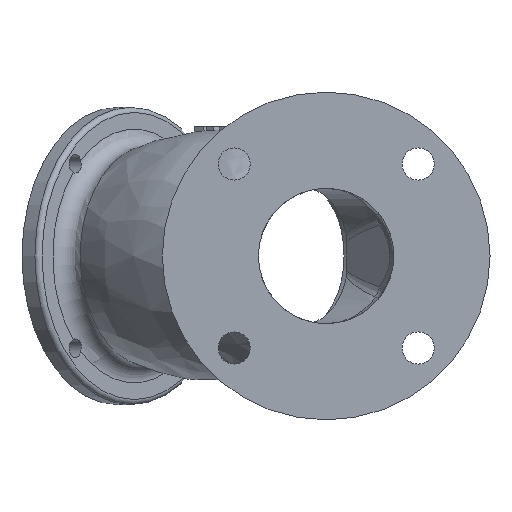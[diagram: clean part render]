
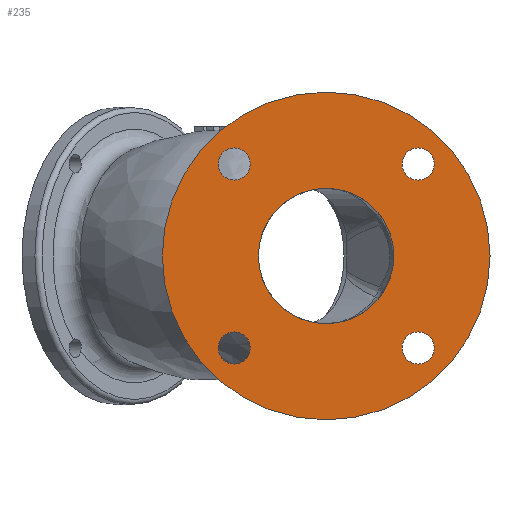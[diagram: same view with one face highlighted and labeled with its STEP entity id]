
A CAD part, front view. The second image highlights one B-rep face of the part: STEP entity #235.
In plain terms, the highlighted planar face has unit normal (0, -1, 0).
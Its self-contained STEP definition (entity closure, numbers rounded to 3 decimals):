
#235 = ADVANCED_FACE( '', ( #609, #610, #611, #612, #613, #614 ), #615, .F. );
#609 = FACE_BOUND( '', #3847, .T. );
#610 = FACE_BOUND( '', #3848, .T. );
#611 = FACE_OUTER_BOUND( '', #3849, .T. );
#612 = FACE_BOUND( '', #3850, .T. );
#613 = FACE_BOUND( '', #3851, .T. );
#614 = FACE_BOUND( '', #3852, .T. );
#615 = PLANE( '', #3853 );
#3847 = EDGE_LOOP( '', ( #9286 ) );
#3848 = EDGE_LOOP( '', ( #9287 ) );
#3849 = EDGE_LOOP( '', ( #9288 ) );
#3850 = EDGE_LOOP( '', ( #9289 ) );
#3851 = EDGE_LOOP( '', ( #9290 ) );
#3852 = EDGE_LOOP( '', ( #9291 ) );
#3853 = AXIS2_PLACEMENT_3D( '', #9292, #9293, #9294 );
#9286 = ORIENTED_EDGE( '', *, *, #10694, .F. );
#9287 = ORIENTED_EDGE( '', *, *, #10753, .F. );
#9288 = ORIENTED_EDGE( '', *, *, #10754, .F. );
#9289 = ORIENTED_EDGE( '', *, *, #10755, .F. );
#9290 = ORIENTED_EDGE( '', *, *, #10756, .F. );
#9291 = ORIENTED_EDGE( '', *, *, #10757, .F. );
#9292 = CARTESIAN_POINT( '', ( 0., 0., 0. ) );
#9293 = DIRECTION( '', ( 0., 1., 0. ) );
#9294 = DIRECTION( '', ( 0., 0., 1. ) );
#10694 = EDGE_CURVE( '', #11277, #11277, #11278, .F. );
#10753 = EDGE_CURVE( '', #11377, #11377, #11378, .F. );
#10754 = EDGE_CURVE( '', #11379, #11379, #11380, .T. );
#10755 = EDGE_CURVE( '', #11381, #11381, #11382, .F. );
#10756 = EDGE_CURVE( '', #11383, #11383, #11384, .F. );
#10757 = EDGE_CURVE( '', #11385, #11385, #11386, .F. );
#11277 = VERTEX_POINT( '', #13496 );
#11278 = CIRCLE( '', #13497, 9.5 );
#11377 = VERTEX_POINT( '', #13887 );
#11378 = CIRCLE( '', #13888, 9.5 );
#11379 = VERTEX_POINT( '', #13889 );
#11380 = CIRCLE( '', #13890, 97. );
#11381 = VERTEX_POINT( '', #13891 );
#11382 = CIRCLE( '', #13892, 40.1 );
#11383 = VERTEX_POINT( '', #13893 );
#11384 = CIRCLE( '', #13894, 9.5 );
#11385 = VERTEX_POINT( '', #13895 );
#11386 = CIRCLE( '', #13896, 9.5 );
#13496 = CARTESIAN_POINT( '', ( 54.447, 0., 63.947 ) );
#13497 = AXIS2_PLACEMENT_3D( '', #17139, #17140, #17141 );
#13887 = CARTESIAN_POINT( '', ( -54.447, 0., -44.947 ) );
#13888 = AXIS2_PLACEMENT_3D( '', #17204, #17205, #17206 );
#13889 = CARTESIAN_POINT( '', ( 97., 0., 0. ) );
#13890 = AXIS2_PLACEMENT_3D( '', #17207, #17208, #17209 );
#13891 = CARTESIAN_POINT( '', ( 0., 0., 40.1 ) );
#13892 = AXIS2_PLACEMENT_3D( '', #17210, #17211, #17212 );
#13893 = CARTESIAN_POINT( '', ( 54.447, 0., -44.947 ) );
#13894 = AXIS2_PLACEMENT_3D( '', #17213, #17214, #17215 );
#13895 = CARTESIAN_POINT( '', ( -54.447, 0., 63.947 ) );
#13896 = AXIS2_PLACEMENT_3D( '', #17216, #17217, #17218 );
#17139 = CARTESIAN_POINT( '', ( 54.447, 0., 54.447 ) );
#17140 = DIRECTION( '', ( 0., 1., 0. ) );
#17141 = DIRECTION( '', ( 0., 0., 1. ) );
#17204 = CARTESIAN_POINT( '', ( -54.447, 0., -54.447 ) );
#17205 = DIRECTION( '', ( 0., 1., 0. ) );
#17206 = DIRECTION( '', ( 0., 0., 1. ) );
#17207 = CARTESIAN_POINT( '', ( 0., 0., 0. ) );
#17208 = DIRECTION( '', ( 0., 1., 0. ) );
#17209 = DIRECTION( '', ( 1., 0., 0. ) );
#17210 = CARTESIAN_POINT( '', ( 0., 0., 0. ) );
#17211 = DIRECTION( '', ( 0., 1., 0. ) );
#17212 = DIRECTION( '', ( 0., 0., 1. ) );
#17213 = CARTESIAN_POINT( '', ( 54.447, 0., -54.447 ) );
#17214 = DIRECTION( '', ( 0., 1., 0. ) );
#17215 = DIRECTION( '', ( 0., 0., 1. ) );
#17216 = CARTESIAN_POINT( '', ( -54.447, 0., 54.447 ) );
#17217 = DIRECTION( '', ( 0., 1., 0. ) );
#17218 = DIRECTION( '', ( 0., 0., 1. ) );
